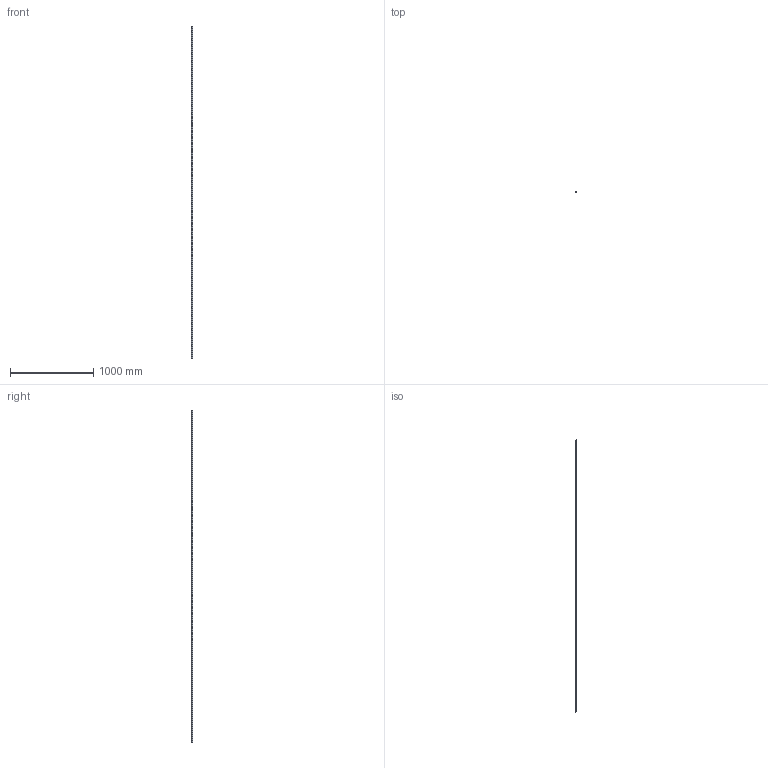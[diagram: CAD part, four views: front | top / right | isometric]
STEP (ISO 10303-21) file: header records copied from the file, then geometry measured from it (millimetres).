
FILE_DESCRIPTION(('STEP AP203'),'1');
FILE_NAME('slide_tnse_l4000.stp','2022-06-22T08:00:59',('TraceParts'),('TraceParts S.A.'),'Spatial InterOp 3D',' ',' ');
FILE_SCHEMA(('CONFIG_CONTROL_DESIGN'));
Length unit declared in the file: millimetre
Products named in the file (1): 1
Bounding box: 20.8 x 12.35 x 4000 mm (x, y, z)
Volume: 763823.7 mm3; surface area: 283992.4 mm2
Topology: 1 solids, 1 shells, 247 faces, 597 edges, 398 vertices
Faces by surface type: cylinder 188, plane 59
Entity records: 7655 total; most frequent: DIRECTION 1469, CARTESIAN_POINT 1243, ORIENTED_EDGE 1194, AXIS2_PLACEMENT_3D 624, EDGE_CURVE 597, VERTEX_POINT 398, EDGE_LOOP 385, CIRCLE 376
